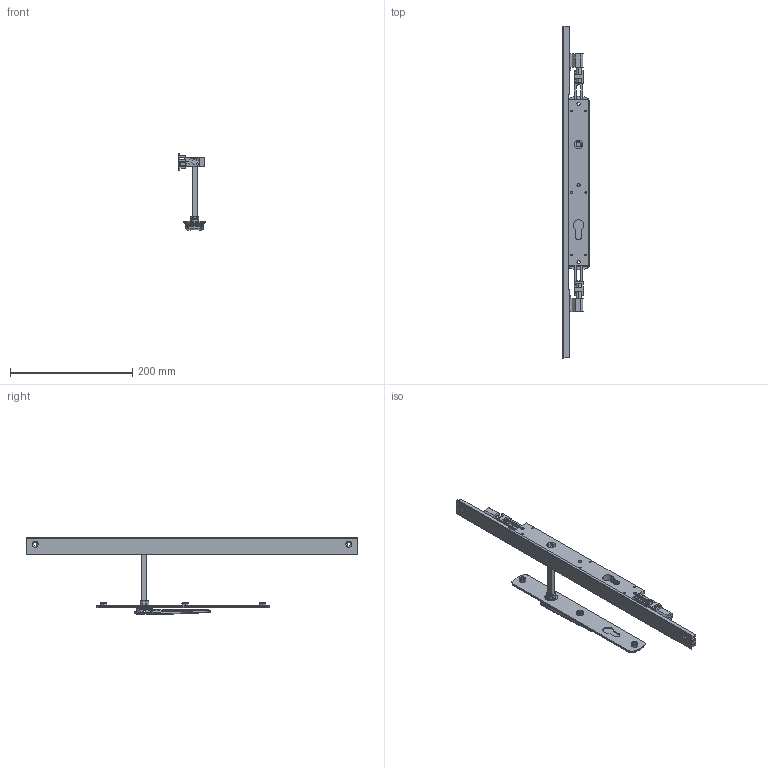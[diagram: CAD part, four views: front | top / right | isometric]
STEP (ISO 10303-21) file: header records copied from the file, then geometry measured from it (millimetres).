
FILE_DESCRIPTION (( 'STEP AP214' ), '1' );
FILE_NAME ('TPL-W-EU-616-L 06Nov2024.STEP', '2024-11-27T03:51:29', ( '' ), ( '' ), 'SwSTEP 2.0', 'SolidWorks 2023', '' );
FILE_SCHEMA (( 'AUTOMOTIVE_DESIGN' ));
Length unit declared in the file: millimetre
Products named in the file (18): Copy of TPLGen2 lock body keyed assembly^TPL-W-EU-116 04Nov2024_Bolts extended; Bolt.step; Copy of LKC-505 Swing handle zinc - simplified^Copy of TPGen2 handle non-keyed long zinc - simplified_TPL-W-EU-116 04Nov2024; Copy of COV-112-C Cover C TPLGen2 Lock body^TPL-W-EU-116 04Nov2024; Copy of Copy of LKC-531 Lock twinpoint transmission rod wood system^TPL-W-EU-116 04Nov2024_Standard Range 2891.7mm; Copy of TPGen2 handle non-keyed long zinc - simplified^TPL-W-EU-116 04Nov2024_Vertical; Copy of Adapter CnE - simplfied^TPL-W-EU-116 04Nov2024_26mm backset; Copy of LKC-585 Rotator body zinc^Copy of TPGen2 handle non-keyed long zinc - simplified_TPL-W-EU-116 04Nov2024; TPL-W-EU-616-L 06Nov2024; Copy (2) of COV-112-B Cover B suit TPLGen2 standard range^TPL-W-EU-116 04Nov2024_2870mm; Copy of LKC-584 Pivot body zinc - simplified^Copy of TPGen2 handle non-keyed long zinc - simplified_TPL-W-EU-116 04Nov2024; Copy of COV-112-A Cover A suit TPLGen2 standard range^TPL-W-EU-116 04Nov2024_2870mm; Copy of LKC-583 Escutcheon plate unkeyed 285mm long zinc - simplified^Copy of TPGen2 handle non-keyed long zinc - simplified_TPL-W-EU-116 04Nov2024; Copy of LKC-586 Spindle square 8mm with M4 hole^Copy of TPGen2 handle non-keyed long zinc - simplified_TPL-W-EU-116 04Nov2024_100mm; Copy of TPLGen2 lock body keyed^Copy of TPLGen2 lock body keyed assembly_TPL-W-EU-116 04Nov2024; Copy of Adapter DnF - simplfied^TPL-W-EU-116 04Nov2024_26mm backset; Copy of Copy of Copy of LKC-531 Lock twinpoint transmission rod wood system^TPL-W-EU-116 04Nov2024_Standard Range 2891.7mm; TPLGen2 push rod - simplified^Copy of TPLGen2 lock body keyed assembly_TPL-W-EU-116 04Nov2024_Female thread M10
Assembly tree (15 placements, depth 3):
  Bolt.step
  TPL-W-EU-616-L 06Nov2024
    Copy of TPLGen2 lock body keyed assembly^TPL-W-EU-116 04Nov2024_Bolts extended
      Copy of TPLGen2 lock body keyed^Copy of TPLGen2 lock body keyed assembly_TPL-W-EU-116 04Nov2024
      TPLGen2 push rod - simplified^Copy of TPLGen2 lock body keyed assembly_TPL-W-EU-116 04Nov2024_Female thread M10  x2
    Copy of TPGen2 handle non-keyed long zinc - simplified^TPL-W-EU-116 04Nov2024_Vertical
      Copy of LKC-583 Escutcheon plate unkeyed 285mm long zinc - simplified^Copy of TPGen2 handle non-keyed long zinc - simplified_TPL-W-EU-116 04Nov2024
      Copy of LKC-505 Swing handle zinc - simplified^Copy of TPGen2 handle non-keyed long zinc - simplified_TPL-W-EU-116 04Nov2024
      Copy of LKC-585 Rotator body zinc^Copy of TPGen2 handle non-keyed long zinc - simplified_TPL-W-EU-116 04Nov2024
      Copy of LKC-586 Spindle square 8mm with M4 hole^Copy of TPGen2 handle non-keyed long zinc - simplified_TPL-W-EU-116 04Nov2024_100mm
      Copy of LKC-584 Pivot body zinc - simplified^Copy of TPGen2 handle non-keyed long zinc - simplified_TPL-W-EU-116 04Nov2024
    Copy of COV-112-C Cover C TPLGen2 Lock body^TPL-W-EU-116 04Nov2024
    Copy of Copy of LKC-531 Lock twinpoint transmission rod wood system^TPL-W-EU-116 04Nov2024_Standard Range 2891.7mm
    Copy of Copy of Copy of LKC-531 Lock twinpoint transmission rod wood system^TPL-W-EU-116 04Nov2024_Standard Range 2891.7mm
    Copy of Adapter DnF - simplfied^TPL-W-EU-116 04Nov2024_26mm backset
    Copy of Adapter CnE - simplfied^TPL-W-EU-116 04Nov2024_26mm backset
  Copy (2) of COV-112-B Cover B suit TPLGen2 standard range^TPL-W-EU-116 04Nov2024_2870mm
  Copy of COV-112-A Cover A suit TPLGen2 standard range^TPL-W-EU-116 04Nov2024_2870mm
Bounding box: 43.5 x 544 x 125.06 mm (x, y, z)
Volume: 274242.8 mm3; surface area: 137322.3 mm2
Topology: 13 solids, 13 shells, 887 faces, 2187 edges, 1360 vertices
Faces by surface type: plane 310, bspline 241, cylinder 206, cone 70, torus 52, sphere 8
Entity records: 31804 total; most frequent: CARTESIAN_POINT 12765, ORIENTED_EDGE 4182, DIRECTION 3417, EDGE_CURVE 2091, VERTEX_POINT 1300, AXIS2_PLACEMENT_3D 1254, EDGE_LOOP 947, VECTOR 909
